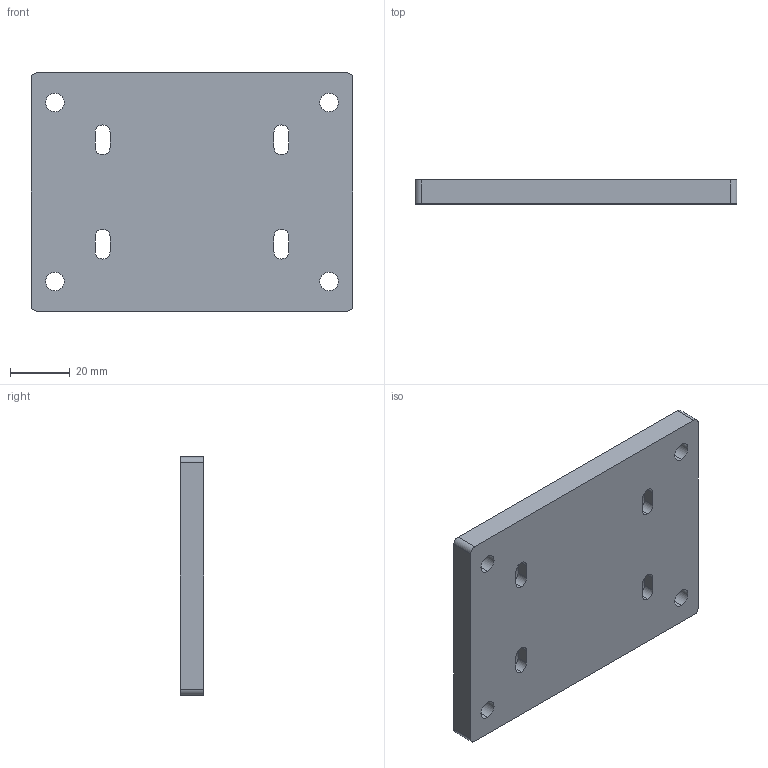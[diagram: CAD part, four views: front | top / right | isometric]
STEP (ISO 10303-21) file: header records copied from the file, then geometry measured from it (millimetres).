
FILE_DESCRIPTION (( 'STEP AP214' ), '1' );
FILE_NAME ('HFP-80A.STEP', '2023-12-04T09:29:01', ( '' ), ( '' ), 'SwSTEP 2.0', 'SolidWorks 2018', '' );
FILE_SCHEMA (( 'AUTOMOTIVE_DESIGN' ));
Length unit declared in the file: millimetre
Products named in the file (1): HFP-80A
Bounding box: 108 x 8 x 80 mm (x, y, z)
Volume: 65355.6 mm3; surface area: 21352.3 mm2
Topology: 1 solids, 1 shells, 62 faces, 168 edges, 112 vertices
Faces by surface type: cylinder 36, plane 26
Entity records: 2050 total; most frequent: DIRECTION 366, CARTESIAN_POINT 343, ORIENTED_EDGE 336, EDGE_CURVE 168, AXIS2_PLACEMENT_3D 135, VERTEX_POINT 112, VECTOR 96, LINE 96
